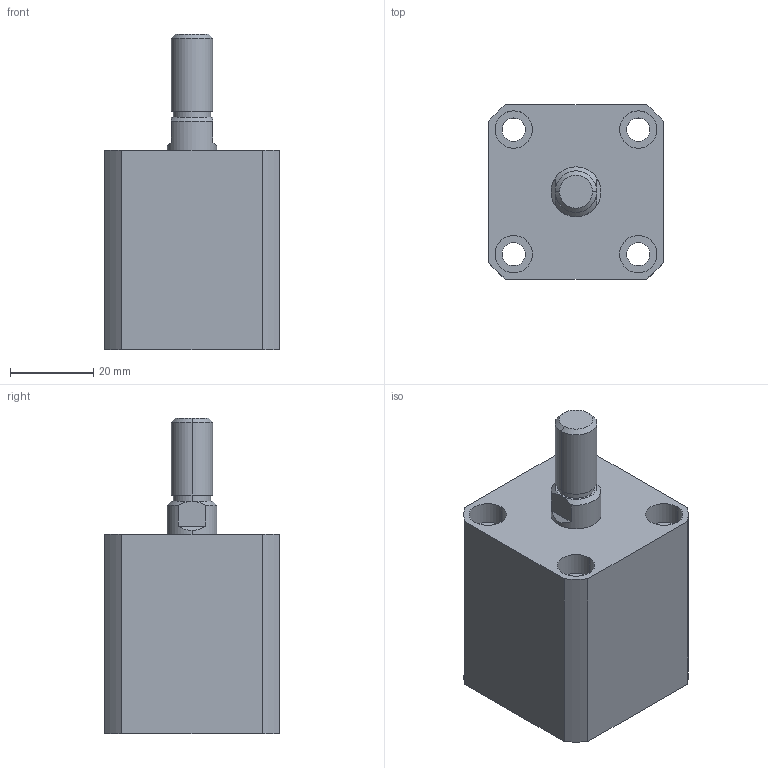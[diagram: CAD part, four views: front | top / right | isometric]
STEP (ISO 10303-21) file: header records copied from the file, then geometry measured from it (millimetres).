
FILE_DESCRIPTION (( 'STEP AP203' ), '1' );
FILE_NAME ('HTB-SDMB20-5W.STEP', '2019-10-08T11:52:50', ( '微软用户' ), ( '微软中国' ), 'SwSTEP 2.0', 'SolidWorks 2012', '' );
FILE_SCHEMA (( 'CONFIG_CONTROL_DESIGN' ));
Length unit declared in the file: millimetre
Products named in the file (3): HTB-SDMB20-5掛极; HTB-SDMB20-5W活塞杆; HTB-SDMB20-5W
Assembly tree (2 placements, depth 2):
  HTB-SDMB20-5W
    HTB-SDMB20-5掛极
    HTB-SDMB20-5W活塞杆
Bounding box: 42 x 42 x 76 mm (x, y, z)
Volume: 77882.3 mm3; surface area: 20734.1 mm2
Topology: 2 solids, 2 shells, 140 faces, 332 edges, 218 vertices
Faces by surface type: plane 66, cylinder 48, bspline 16, torus 6, cone 4
Entity records: 5129 total; most frequent: CARTESIAN_POINT 1587, ORIENTED_EDGE 664, DIRECTION 662, EDGE_CURVE 332, AXIS2_PLACEMENT_3D 241, VERTEX_POINT 218, LINE 180, VECTOR 180
